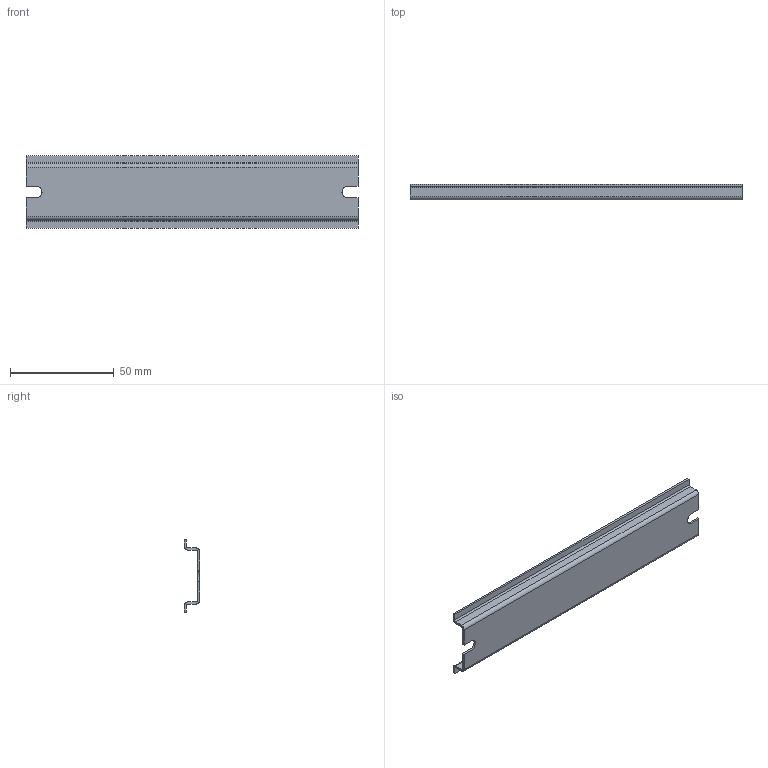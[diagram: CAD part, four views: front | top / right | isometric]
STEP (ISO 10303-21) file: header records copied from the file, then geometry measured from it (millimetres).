
FILE_DESCRIPTION((''),'2;1');
FILE_NAME('DR35150_5','2009-03-17T',('pavel_leivo'),(''),'PRO/ENGINEER BY PARAMETRIC TECHNOLOGY CORPORATION, 2008250','PRO/ENGINEER BY PARAMETRIC TECHNOLOGY CORPORATION, 2008250','');
FILE_SCHEMA(('AUTOMOTIVE_DESIGN_CC2 { 1 2 10303 214 -1 1 5 2 }'));
Length unit declared in the file: millimetre
Products named in the file (1): DR35150_5
Bounding box: 160 x 7.5 x 35 mm (x, y, z)
Volume: 7244.1 mm3; surface area: 14926.1 mm2
Topology: 1 solids, 1 shells, 30 faces, 84 edges, 56 vertices
Faces by surface type: plane 20, cylinder 10
Entity records: 1442 total; most frequent: COLOUR_RGB 200, CARTESIAN_POINT 170, ORIENTED_EDGE 168, DIRECTION 164, PRESENTATION_STYLE_ASSIGNMENT 85, STYLED_ITEM 85, CURVE_STYLE 84, EDGE_CURVE 84
